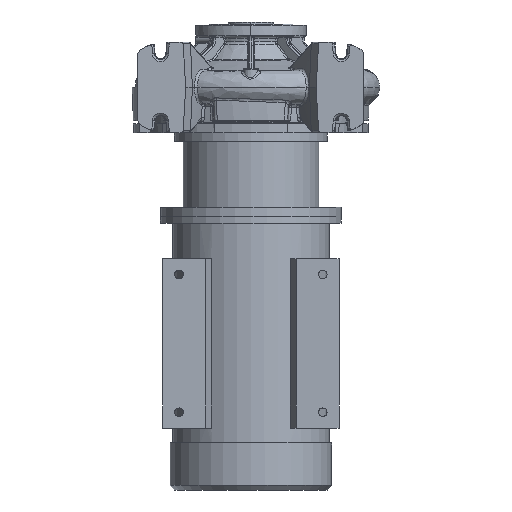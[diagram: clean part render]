
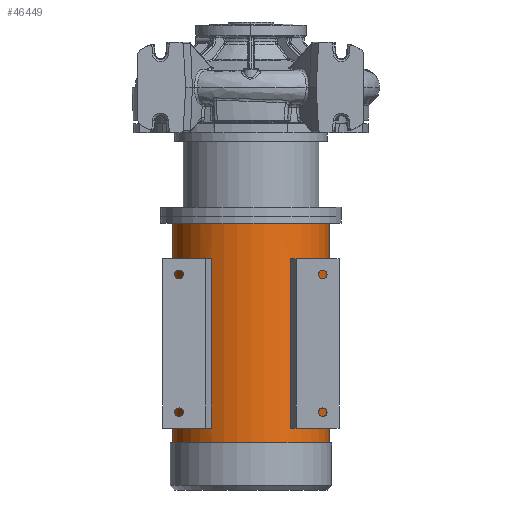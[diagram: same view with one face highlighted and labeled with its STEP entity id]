
A CAD part, front view. The second image highlights one B-rep face of the part: STEP entity #46449.
In plain terms, the highlighted cylindrical face has radius 173.5 mm (diameter 347 mm), a partial arc.
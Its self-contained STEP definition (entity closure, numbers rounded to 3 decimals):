
#102 = DIRECTION ( 'NONE',  ( 0., 0., -1. ) ) ;
#1308 = VECTOR ( 'NONE', #61737, 1000. ) ;
#2173 = FACE_OUTER_BOUND ( 'NONE', #30865, .T. ) ;
#2689 = CIRCLE ( 'NONE', #38905, 173.5 ) ;
#3643 = ORIENTED_EDGE ( 'NONE', *, *, #104659, .F. ) ;
#3837 = CARTESIAN_POINT ( 'NONE',  ( 0., 0., -890.8 ) ) ;
#4581 = DIRECTION ( 'NONE',  ( -1., 0., 0. ) ) ;
#5366 = DIRECTION ( 'NONE',  ( 0., 0., 1. ) ) ;
#5445 = AXIS2_PLACEMENT_3D ( 'NONE', #83515, #5366, #49757 ) ;
#9187 = AXIS2_PLACEMENT_3D ( 'NONE', #54727, #18767, #63544 ) ;
#9890 = ORIENTED_EDGE ( 'NONE', *, *, #75552, .F. ) ;
#10343 = CARTESIAN_POINT ( 'NONE',  ( -87.271, -149.953, -890.8 ) ) ;
#12171 = EDGE_CURVE ( 'NONE', #21821, #16880, #73624, .T. ) ;
#14909 = CARTESIAN_POINT ( 'NONE',  ( -87.271, -149.953, -378.8 ) ) ;
#15189 = VERTEX_POINT ( 'NONE', #87483 ) ;
#16880 = VERTEX_POINT ( 'NONE', #27195 ) ;
#18767 = DIRECTION ( 'NONE',  ( 0., 0., 1. ) ) ;
#19522 = DIRECTION ( 'NONE',  ( 0., 0., 1. ) ) ;
#20234 = DIRECTION ( 'NONE',  ( 0., 0., -1. ) ) ;
#20593 = AXIS2_PLACEMENT_3D ( 'NONE', #94649, #59762, #33355 ) ;
#21821 = VERTEX_POINT ( 'NONE', #110447 ) ;
#21898 = CARTESIAN_POINT ( 'NONE',  ( 87.271, -149.953, -753.8 ) ) ;
#22098 = LINE ( 'NONE', #10343, #97521 ) ;
#22709 = ORIENTED_EDGE ( 'NONE', *, *, #110862, .T. ) ;
#23965 = EDGE_LOOP ( 'NONE', ( #49421, #91022, #77129, #46195 ) ) ;
#23978 = CYLINDRICAL_SURFACE ( 'NONE', #99428, 173.5 ) ;
#24100 = EDGE_LOOP ( 'NONE', ( #111545, #82467, #9890, #3643 ) ) ;
#26422 = DIRECTION ( 'NONE',  ( 0., 0., -1. ) ) ;
#26589 = VERTEX_POINT ( 'NONE', #83067 ) ;
#27195 = CARTESIAN_POINT ( 'NONE',  ( 100.73, -141.265, -378.8 ) ) ;
#27406 = VECTOR ( 'NONE', #71509, 1000. ) ;
#30631 = CIRCLE ( 'NONE', #52263, 173.5 ) ;
#30865 = EDGE_LOOP ( 'NONE', ( #53209, #57512, #22709, #41627 ) ) ;
#32358 = VERTEX_POINT ( 'NONE', #86173 ) ;
#33009 = CARTESIAN_POINT ( 'NONE',  ( 173.5, 0., -890.8 ) ) ;
#33316 = VERTEX_POINT ( 'NONE', #50497 ) ;
#33355 = DIRECTION ( 'NONE',  ( 1., 0., 0. ) ) ;
#34866 = VERTEX_POINT ( 'NONE', #41702 ) ;
#35371 = VECTOR ( 'NONE', #55799, 1000. ) ;
#38410 = LINE ( 'NONE', #104063, #27406 ) ;
#38905 = AXIS2_PLACEMENT_3D ( 'NONE', #70117, #102, #61318 ) ;
#40911 = LINE ( 'NONE', #33009, #98507 ) ;
#41627 = ORIENTED_EDGE ( 'NONE', *, *, #101323, .F. ) ;
#41702 = CARTESIAN_POINT ( 'NONE',  ( -173.5, 0., -300.8 ) ) ;
#43852 = VECTOR ( 'NONE', #103455, 1000. ) ;
#44902 = EDGE_CURVE ( 'NONE', #15189, #33316, #40911, .T. ) ;
#46195 = ORIENTED_EDGE ( 'NONE', *, *, #70162, .T. ) ;
#46449 = ADVANCED_FACE ( 'NONE', ( #2173, #74761, #63750 ), #23978, .T. ) ;
#47258 = VERTEX_POINT ( 'NONE', #61275 ) ;
#49421 = ORIENTED_EDGE ( 'NONE', *, *, #97948, .F. ) ;
#49757 = DIRECTION ( 'NONE',  ( -1., 0., 0. ) ) ;
#49781 = DIRECTION ( 'NONE',  ( -1., 0., 0. ) ) ;
#50497 = CARTESIAN_POINT ( 'NONE',  ( 173.5, 0., -786.8 ) ) ;
#50841 = VERTEX_POINT ( 'NONE', #21898 ) ;
#52263 = AXIS2_PLACEMENT_3D ( 'NONE', #91076, #20234, #108583 ) ;
#53209 = ORIENTED_EDGE ( 'NONE', *, *, #44902, .F. ) ;
#54727 = CARTESIAN_POINT ( 'NONE',  ( 0., 0., -753.8 ) ) ;
#55799 = DIRECTION ( 'NONE',  ( 0., 0., -1. ) ) ;
#56440 = CIRCLE ( 'NONE', #20593, 173.5 ) ;
#56632 = DIRECTION ( 'NONE',  ( 0., 0., -1. ) ) ;
#57512 = ORIENTED_EDGE ( 'NONE', *, *, #86531, .T. ) ;
#59762 = DIRECTION ( 'NONE',  ( 0., 0., -1. ) ) ;
#60059 = CARTESIAN_POINT ( 'NONE',  ( -173.5, 0., -786.8 ) ) ;
#61275 = CARTESIAN_POINT ( 'NONE',  ( 100.73, -141.265, -753.8 ) ) ;
#61318 = DIRECTION ( 'NONE',  ( -1., 0., 0. ) ) ;
#61737 = DIRECTION ( 'NONE',  ( 0., 0., -1. ) ) ;
#62731 = LINE ( 'NONE', #108211, #35371 ) ;
#63544 = DIRECTION ( 'NONE',  ( -1., 0., 0. ) ) ;
#63750 = FACE_BOUND ( 'NONE', #24100, .T. ) ;
#67141 = LINE ( 'NONE', #94321, #43852 ) ;
#69038 = CARTESIAN_POINT ( 'NONE',  ( 100.73, -141.265, -890.8 ) ) ;
#70117 = CARTESIAN_POINT ( 'NONE',  ( 0., 0., -300.8 ) ) ;
#70162 = EDGE_CURVE ( 'NONE', #16880, #47258, #82210, .T. ) ;
#70834 = EDGE_CURVE ( 'NONE', #26589, #100482, #30631, .T. ) ;
#71509 = DIRECTION ( 'NONE',  ( 0., 0., -1. ) ) ;
#73624 = CIRCLE ( 'NONE', #5445, 173.5 ) ;
#74761 = FACE_BOUND ( 'NONE', #23965, .T. ) ;
#75552 = EDGE_CURVE ( 'NONE', #32358, #100482, #38410, .T. ) ;
#75831 = DIRECTION ( 'NONE',  ( 0., 0., -1. ) ) ;
#77129 = ORIENTED_EDGE ( 'NONE', *, *, #12171, .T. ) ;
#80043 = VERTEX_POINT ( 'NONE', #14909 ) ;
#82210 = LINE ( 'NONE', #69038, #1308 ) ;
#82467 = ORIENTED_EDGE ( 'NONE', *, *, #70834, .T. ) ;
#83067 = CARTESIAN_POINT ( 'NONE',  ( -87.271, -149.953, -753.8 ) ) ;
#83112 = VERTEX_POINT ( 'NONE', #60059 ) ;
#83515 = CARTESIAN_POINT ( 'NONE',  ( 0., 0., -378.8 ) ) ;
#86173 = CARTESIAN_POINT ( 'NONE',  ( -100.73, -141.265, -378.8 ) ) ;
#86218 = EDGE_CURVE ( 'NONE', #50841, #21821, #67141, .T. ) ;
#86531 = EDGE_CURVE ( 'NONE', #15189, #34866, #2689, .T. ) ;
#87483 = CARTESIAN_POINT ( 'NONE',  ( 173.5, 0., -300.8 ) ) ;
#88295 = EDGE_CURVE ( 'NONE', #26589, #80043, #22098, .T. ) ;
#91022 = ORIENTED_EDGE ( 'NONE', *, *, #86218, .T. ) ;
#91076 = CARTESIAN_POINT ( 'NONE',  ( 0., 0., -753.8 ) ) ;
#94321 = CARTESIAN_POINT ( 'NONE',  ( 87.271, -149.953, -890.8 ) ) ;
#94649 = CARTESIAN_POINT ( 'NONE',  ( 0., 0., -378.8 ) ) ;
#95620 = CIRCLE ( 'NONE', #101548, 173.5 ) ;
#95763 = CARTESIAN_POINT ( 'NONE',  ( 0., 0., -786.8 ) ) ;
#95811 = CIRCLE ( 'NONE', #9187, 173.5 ) ;
#97521 = VECTOR ( 'NONE', #19522, 1000. ) ;
#97948 = EDGE_CURVE ( 'NONE', #50841, #47258, #95811, .T. ) ;
#98507 = VECTOR ( 'NONE', #26422, 1000. ) ;
#99428 = AXIS2_PLACEMENT_3D ( 'NONE', #3837, #56632, #4581 ) ;
#100482 = VERTEX_POINT ( 'NONE', #102692 ) ;
#101323 = EDGE_CURVE ( 'NONE', #33316, #83112, #95620, .T. ) ;
#101548 = AXIS2_PLACEMENT_3D ( 'NONE', #95763, #75831, #49781 ) ;
#102692 = CARTESIAN_POINT ( 'NONE',  ( -100.73, -141.265, -753.8 ) ) ;
#103455 = DIRECTION ( 'NONE',  ( 0., 0., 1. ) ) ;
#104063 = CARTESIAN_POINT ( 'NONE',  ( -100.73, -141.265, -890.8 ) ) ;
#104659 = EDGE_CURVE ( 'NONE', #80043, #32358, #56440, .T. ) ;
#108211 = CARTESIAN_POINT ( 'NONE',  ( -173.5, 0., -890.8 ) ) ;
#108583 = DIRECTION ( 'NONE',  ( 1., 0., 0. ) ) ;
#110447 = CARTESIAN_POINT ( 'NONE',  ( 87.271, -149.953, -378.8 ) ) ;
#110862 = EDGE_CURVE ( 'NONE', #34866, #83112, #62731, .T. ) ;
#111545 = ORIENTED_EDGE ( 'NONE', *, *, #88295, .F. ) ;
